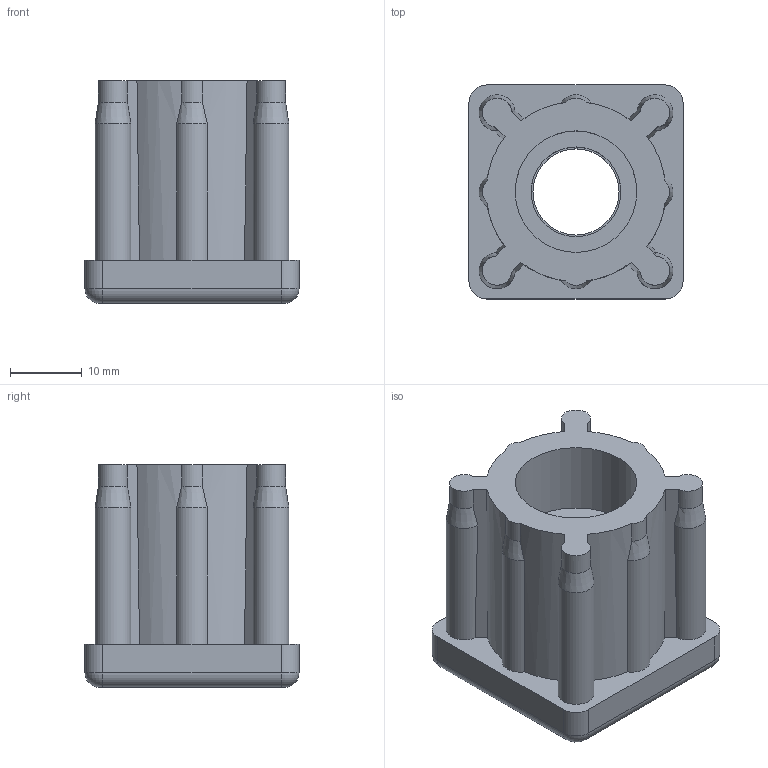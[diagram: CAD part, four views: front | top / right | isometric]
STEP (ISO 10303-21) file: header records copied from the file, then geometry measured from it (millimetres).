
FILE_DESCRIPTION((''),'2;1');
FILE_NAME('42006830212.STP','2013-02-06T13:47:17',(''),(''),'STEP Write','Mastercam X5 ... CNC Software, Inc.','');
FILE_SCHEMA(('AUTOMOTIVE_DESIGN'));
Length unit declared in the file: millimetre
Products named in the file (1): None
Bounding box: 29.8 x 29.8 x 31 mm (x, y, z)
Volume: 15099.6 mm3; surface area: 7689.1 mm2
Topology: 2 solids, 2 shells, 70 faces, 180 edges, 117 vertices
Faces by surface type: cylinder 37, plane 19, cone 10, torus 4
Full cylindrical faces by diameter (mm): 12 x1, 12.5 x1, 16 x2, 16.928 x1
Entity records: 2203 total; most frequent: CARTESIAN_POINT 511, DIRECTION 354, ORIENTED_EDGE 344, EDGE_CURVE 172, AXIS2_PLACEMENT_3D 151, VERTEX_POINT 116, EDGE_LOOP 84, CIRCLE 81
